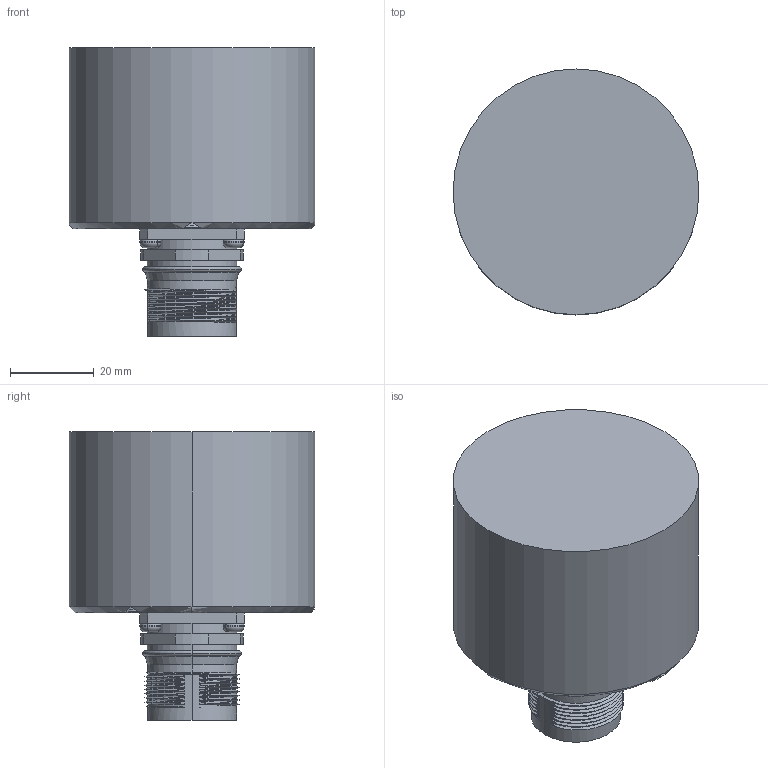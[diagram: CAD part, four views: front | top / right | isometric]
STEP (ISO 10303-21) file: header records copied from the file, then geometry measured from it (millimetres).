
FILE_DESCRIPTION (( 'STEP AP203' ), '1' );
FILE_NAME ('Drawing-OC-5-CA-432-SWS-Z1BNNN-Y-PAL-N.STEP', '2018-06-28T11:51:01', ( '' ), ( '' ), 'SwSTEP 2.0', 'SolidWorks 2018', '' );
FILE_SCHEMA (( 'CONFIG_CONTROL_DESIGN' ));
Length unit declared in the file: millimetre
Products named in the file (1): Drawing-OC-5-CA-432-SWS-Z1BNNN-Y-PAL-N
Bounding box: 58.6 x 58.6 x 68.8 mm (x, y, z)
Volume: 121392 mm3; surface area: 20427.4 mm2
Topology: 19 solids, 24 shells, 846 faces, 2173 edges, 1386 vertices
Faces by surface type: plane 229, cone 195, cylinder 160, bspline 144, torus 94, sphere 24
Entity records: 39102 total; most frequent: CARTESIAN_POINT 19566, ORIENTED_EDGE 4222, DIRECTION 3864, EDGE_CURVE 2111, AXIS2_PLACEMENT_3D 1588, VERTEX_POINT 1362, EDGE_LOOP 923, CIRCLE 885
